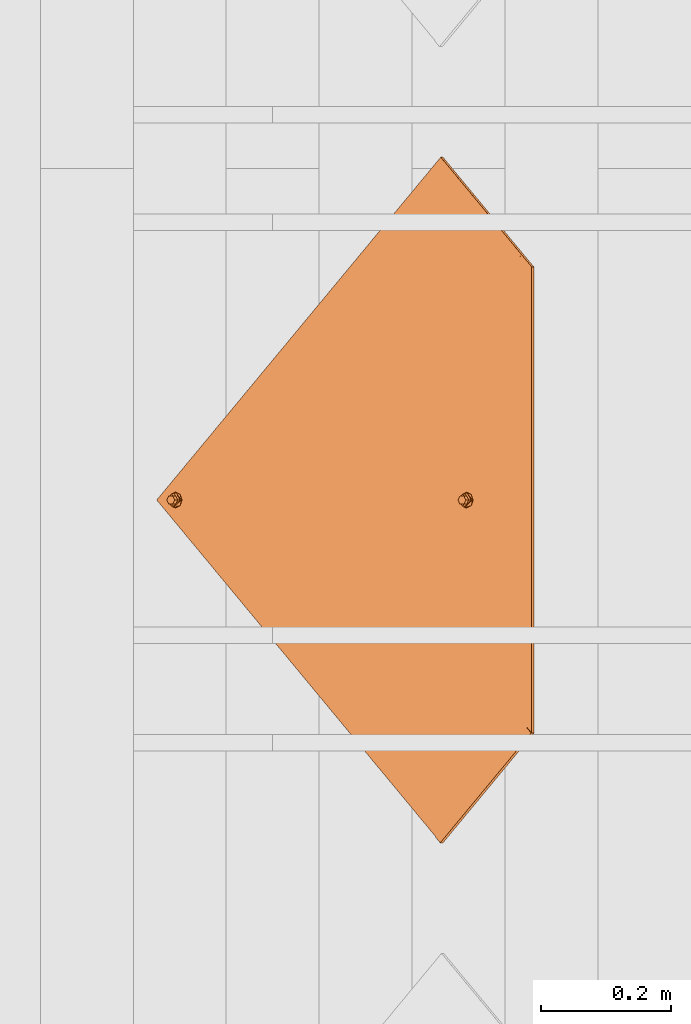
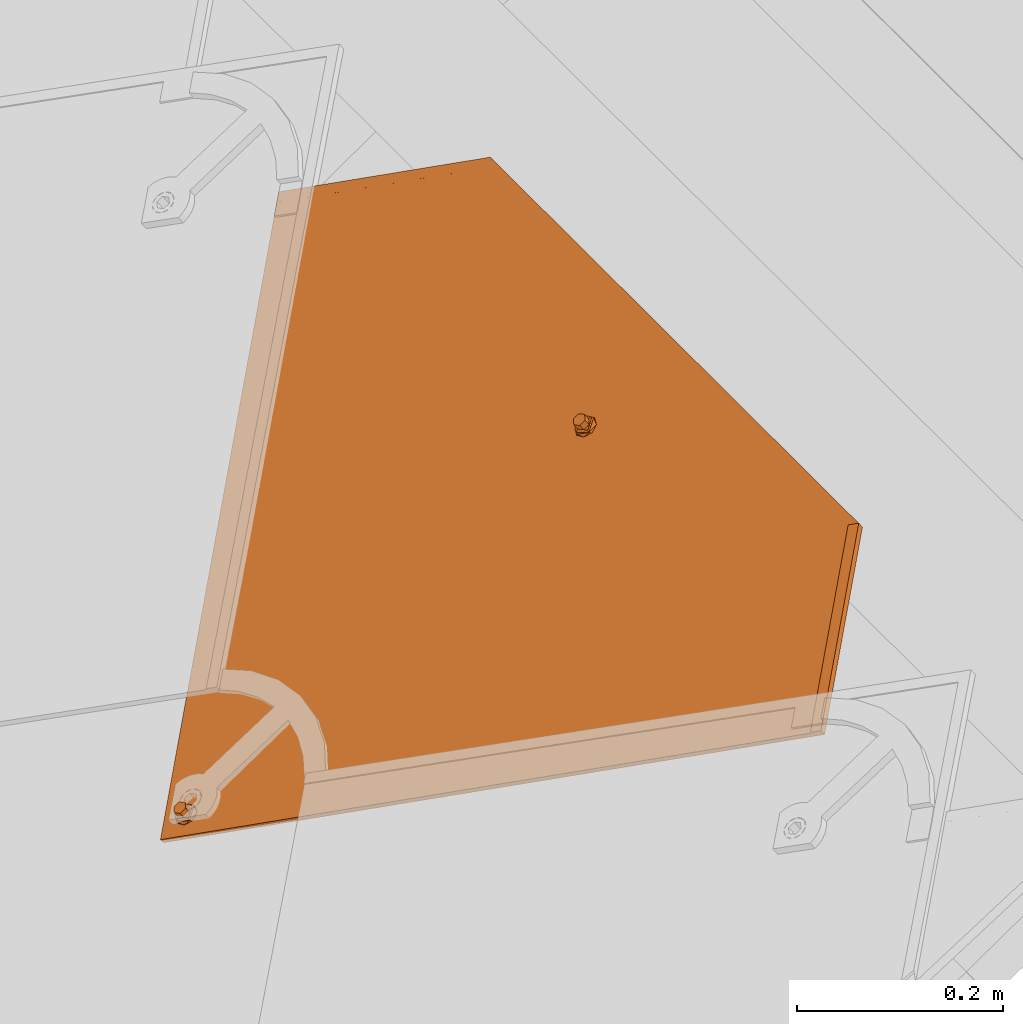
# One storey, part 38 of 151: 1 proxy.
"""IFC2X3 building model written with IfcOpenShell, lengths in millimetres."""

from ifc_helpers import new_model, entity, si_unit, converted_unit, derived_unit, direction, frame, origin, place, context, subcontext, project, spatial, faceted_brep, source, transform, mapped, material, material_list, type_object, type_shapes, element, save


model = new_model("IFC2X3")

# Units and contexts
model_context = context("Model", 3, precision=0.01, world=origin(), true_north=direction((6.12303176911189e-17, 1.0)))
body_context = subcontext(model_context, "Body", "Model", "MODEL_VIEW")
ifc_project = project(units=[si_unit("LENGTHUNIT", "METRE", prefix="MILLI"), si_unit("AREAUNIT", "SQUARE_METRE"), si_unit("VOLUMEUNIT", "CUBIC_METRE"), converted_unit("PLANEANGLEUNIT", "DEGREE", entity("IfcRatioMeasure", 0.0174532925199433), si_unit("PLANEANGLEUNIT", "RADIAN"), dimensions=[0, 0, 0, 0, 0, 0, 0]), si_unit("MASSUNIT", "GRAM", prefix="KILO"), derived_unit("MASSDENSITYUNIT", [(si_unit("MASSUNIT", "GRAM", prefix="KILO"), 1), (si_unit("LENGTHUNIT", "METRE"), -3)]), si_unit("TIMEUNIT", "SECOND"), si_unit("FREQUENCYUNIT", "HERTZ"), si_unit("THERMODYNAMICTEMPERATUREUNIT", "DEGREE_CELSIUS"), derived_unit("THERMALTRANSMITTANCEUNIT", [(si_unit("MASSUNIT", "GRAM", prefix="KILO"), 1), (si_unit("THERMODYNAMICTEMPERATUREUNIT", "KELVIN"), -1), (si_unit("TIMEUNIT", "SECOND"), -3)]), derived_unit("VOLUMETRICFLOWRATEUNIT", [(si_unit("LENGTHUNIT", "METRE"), 3), (si_unit("TIMEUNIT", "SECOND"), -1)]), si_unit("ELECTRICCURRENTUNIT", "AMPERE"), si_unit("ELECTRICVOLTAGEUNIT", "VOLT"), si_unit("POWERUNIT", "WATT"), si_unit("FORCEUNIT", "NEWTON", prefix="KILO"), si_unit("ILLUMINANCEUNIT", "LUX"), si_unit("LUMINOUSFLUXUNIT", "LUMEN"), si_unit("LUMINOUSINTENSITYUNIT", "CANDELA"), derived_unit("USERDEFINED", [(si_unit("MASSUNIT", "GRAM", prefix="KILO"), -1), (si_unit("LENGTHUNIT", "METRE"), -2), (si_unit("TIMEUNIT", "SECOND"), 3), (si_unit("LUMINOUSFLUXUNIT", "LUMEN"), 1)]), derived_unit("LINEARVELOCITYUNIT", [(si_unit("LENGTHUNIT", "METRE"), 1), (si_unit("TIMEUNIT", "SECOND"), -1)]), si_unit("PRESSUREUNIT", "PASCAL"), derived_unit("USERDEFINED", [(si_unit("LENGTHUNIT", "METRE"), -2), (si_unit("MASSUNIT", "GRAM", prefix="KILO"), 1), (si_unit("TIMEUNIT", "SECOND"), -2)])], contexts=[model_context])

# Site, building, storey
site_placement = place(None, origin())
site = spatial("IfcSite", under=ifc_project, at=site_placement, Name="Default", CompositionType="ELEMENT")
building_placement = place(site_placement, origin())
building = spatial("IfcBuilding", under=site, at=building_placement, CompositionType="ELEMENT")
storey_placement = place(building_placement, origin())
storey = spatial("IfcBuildingStorey", under=building, at=storey_placement, Name="Level 1", CompositionType="ELEMENT", Elevation=0.0)

# Proxy
ifc_material_1 = material(Name="Rubber - Sunstyle - Black")
ifc_material_2 = material(Name="Glass - Sunstyle - Tainted Black")
ifc_material_list_1 = material_list([ifc_material_1, ifc_material_2])
ifc_material_list_2 = material_list([ifc_material_1, ifc_material_2])
building_element_proxy_type = type_object("IfcBuildingElementProxyType", Name="Shingle Top - Black", PredefinedType="NOTDEFINED", material=ifc_material_list_2)
shared_shape = source(origin(), body_context, "Body", "Brep", [
    faceted_brep([(-518.396436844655, -96.9865733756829, 16.4476231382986), (-518.396436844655, -96.9614556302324, 17.9474128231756), (-526.881123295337, -88.4767691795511, 17.8053154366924), (-526.881123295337, -88.5018869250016, 16.3055257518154), (-376.996804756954, 61.3404039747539, 13.7960402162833), (-368.512118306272, 52.8557175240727, 13.9381376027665), (-376.996804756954, 61.3655217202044, 15.2958299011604), (-368.512118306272, 52.8808352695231, 15.4379272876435)], [[[0, 1, 2, 3]], [[0, 3, 4, 5]], [[3, 2, 6, 4]], [[2, 1, 7, 6]], [[1, 0, 5, 7]], [[5, 4, 6, 7]]]),
    faceted_brep([(0.166366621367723, -33.6374645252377, -4.47296585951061), (-5.6078362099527, -36.9707346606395, -4.4171418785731), (-5.60783620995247, -36.6024255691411, 17.5747274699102), (0.166366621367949, -33.2691554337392, 17.5189034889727), (-5.60783620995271, -43.6372749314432, -4.30549391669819), (-5.60783620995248, -43.2689658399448, 17.6863754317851), (0.166366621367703, -46.9705450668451, -4.24966993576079), (0.166366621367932, -46.6022359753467, 17.7421994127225), (5.94056945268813, -43.6372749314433, -4.30549391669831), (5.94056945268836, -43.2689658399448, 17.686375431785), (5.94056945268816, -36.9707346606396, -4.41714187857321), (5.94056945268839, -36.6024255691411, 17.5747274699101), (-8.43733754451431, -48.5381935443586, 17.774621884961), (0.16636662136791, -52.1014648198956, 17.8342978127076), (-12.0011084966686, -39.9356957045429, 17.6305514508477), (-8.43733754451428, -31.3331978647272, 17.4864810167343), (0.166366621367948, -27.7699265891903, 17.4268050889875), (8.77007078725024, -31.3331978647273, 17.4864810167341), (12.3338417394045, -39.935695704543, 17.6305514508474), (8.77007078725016, -48.5381935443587, 17.7746218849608), (-11.1578780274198, -37.6406185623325, 19.9433933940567), (-9.59010793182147, -39.8646808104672, 21.8708760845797), (0.166366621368, -32.5516055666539, 22.5035764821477), (0.166366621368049, -31.3111079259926, 21.9232298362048), (0.166366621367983, -29.1535570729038, 20.9138547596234), (0.166366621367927, -51.5454208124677, 19.1093557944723), (0.166366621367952, -50.6018442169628, 21.273060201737), (0.166366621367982, -47.1524685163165, 22.7481046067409), (0.166366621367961, -28.2829626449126, 18.7197675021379), (-6.15687907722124, -43.5022527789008, 22.6869725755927), (-6.15687907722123, -36.2018213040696, 22.5647085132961), (11.4906112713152, -42.1520387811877, 20.0189484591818), (10.0152467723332, -40.9390872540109, 21.7920079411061), (6.48961231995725, -36.2018213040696, 22.564708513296), (6.48961231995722, -43.5022527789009, 22.6869725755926), (-6.15687907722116, -43.3682243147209, 30.68986075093), (0.166366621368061, -47.0184400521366, 30.7509927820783), (0.166366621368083, -39.7180085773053, 30.6287287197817), (-6.15687907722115, -36.0677928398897, 30.5675966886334), (6.48961231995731, -43.368224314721, 30.6898607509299), (6.48961231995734, -36.0677928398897, 30.5675966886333), (0.166366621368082, -32.417577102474, 30.5064646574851), (0.166366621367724, -40.3040047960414, -4.36131789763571)], [[[0, 1, 2, 3]], [[1, 4, 5, 2]], [[4, 6, 7, 5]], [[6, 8, 9, 7]], [[8, 10, 11, 9]], [[10, 0, 3, 11]], [[12, 7, 13]], [[7, 12, 5]], [[14, 5, 12]], [[5, 14, 2]], [[15, 2, 14]], [[3, 2, 15]], [[15, 16, 3]], [[16, 17, 3]], [[11, 3, 17]], [[11, 17, 18]], [[9, 11, 18]], [[18, 19, 9]], [[7, 9, 19]], [[19, 13, 7]], [[20, 14, 12]], [[21, 22, 23, 24]], [[24, 20, 21]], [[25, 20, 12]], [[26, 27, 21]], [[15, 14, 20]], [[12, 13, 25]], [[20, 28, 15]], [[28, 20, 24]], [[21, 27, 29]], [[21, 29, 30]], [[26, 21, 20]], [[20, 25, 26]], [[15, 28, 16]], [[21, 30, 22]], [[31, 18, 17]], [[28, 31, 17]], [[32, 27, 26]], [[26, 31, 32]], [[26, 25, 31]], [[25, 19, 31]], [[17, 16, 28]], [[31, 19, 18]], [[24, 31, 28]], [[33, 34, 32]], [[23, 22, 33]], [[24, 32, 31]], [[27, 32, 34]], [[32, 23, 33]], [[19, 25, 13]], [[32, 24, 23]], [[35, 36, 37]], [[37, 38, 35]], [[36, 39, 37]], [[40, 37, 39]], [[37, 40, 41]], [[37, 41, 38]], [[42, 6, 4]], [[4, 1, 42]], [[1, 0, 42]], [[42, 8, 6]], [[0, 10, 42]], [[8, 42, 10]], [[22, 30, 38, 41]], [[30, 29, 35, 38]], [[29, 27, 36, 35]], [[27, 34, 39, 36]], [[34, 33, 40, 39]], [[33, 22, 41, 40]]]),
    faceted_brep([(0.0, -573.927138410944, 4.00636906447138), (-5.77420283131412, -577.260408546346, 4.0621930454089), (-5.77420283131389, -576.892099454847, 26.0540623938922), (0.0, -573.558829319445, 25.9982384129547), (-5.77420283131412, -583.926948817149, 4.1738410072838), (-5.7742028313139, -583.558639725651, 26.1657103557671), (0.0, -587.260218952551, 4.2296649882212), (0.0, -586.891909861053, 26.2215343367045), (5.77420283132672, -583.926948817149, 4.17384100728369), (5.77420283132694, -583.558639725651, 26.165710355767), (5.77420283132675, -577.260408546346, 4.06219304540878), (5.77420283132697, -576.892099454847, 26.0540623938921), (-8.60370416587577, -588.827867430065, 26.253956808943), (0.0, -592.391138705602, 26.3136327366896), (-12.1674751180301, -580.225369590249, 26.1098863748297), (-8.60370416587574, -571.622871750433, 25.9658159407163), (0.0, -568.059600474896, 25.9061400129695), (8.60370416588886, -571.622871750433, 25.9658159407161), (12.1674751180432, -580.225369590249, 26.1098863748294), (8.60370416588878, -588.827867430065, 26.2539568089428), (-11.3242446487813, -577.930292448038, 28.4227283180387), (-9.75647455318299, -580.154354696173, 30.3502110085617), (0.0, -572.84127945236, 30.9829114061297), (0.0, -571.600781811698, 30.4025647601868), (0.0, -569.44323095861, 29.3931896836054), (0.0, -591.835094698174, 27.5886907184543), (0.0, -590.891518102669, 29.752395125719), (0.0, -587.442142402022, 31.227439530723), (0.0, -568.572636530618, 27.1991024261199), (-6.32324569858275, -583.791926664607, 31.1663074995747), (-6.32324569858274, -576.491495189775, 31.0440434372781), (11.3242446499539, -582.441712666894, 28.4982833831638), (9.84888015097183, -581.228761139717, 30.2713428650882), (6.32324569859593, -576.491495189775, 31.044043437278), (6.32324569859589, -583.791926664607, 31.1663074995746), (-6.32324569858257, -583.657898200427, 39.169195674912), (0.0, -587.308113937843, 39.2303277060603), (0.0, -580.007682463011, 39.1080636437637), (-6.32324569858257, -576.357466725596, 39.0469316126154), (6.32324569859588, -583.657898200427, 39.1691956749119), (6.32324569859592, -576.357466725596, 39.0469316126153), (0.0, -572.70725098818, 38.9857995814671), (0.0, -580.593678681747, 4.11801702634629)], [[[0, 1, 2, 3]], [[1, 4, 5, 2]], [[4, 6, 7, 5]], [[6, 8, 9, 7]], [[8, 10, 11, 9]], [[10, 0, 3, 11]], [[12, 7, 13]], [[7, 12, 5]], [[14, 5, 12]], [[5, 14, 2]], [[15, 2, 14]], [[3, 2, 15]], [[15, 16, 3]], [[16, 17, 3]], [[11, 3, 17]], [[11, 17, 18]], [[9, 11, 18]], [[18, 19, 9]], [[7, 9, 19]], [[19, 13, 7]], [[20, 14, 12]], [[21, 22, 23, 24]], [[24, 20, 21]], [[25, 20, 12]], [[26, 27, 21]], [[15, 14, 20]], [[12, 13, 25]], [[20, 28, 15]], [[28, 20, 24]], [[21, 27, 29]], [[21, 29, 30]], [[26, 21, 20]], [[20, 25, 26]], [[15, 28, 16]], [[21, 30, 22]], [[31, 18, 17]], [[28, 31, 17]], [[32, 27, 26]], [[26, 31, 32]], [[26, 25, 31]], [[25, 19, 31]], [[17, 16, 28]], [[31, 19, 18]], [[24, 31, 28]], [[33, 34, 32]], [[23, 22, 33]], [[24, 32, 31]], [[27, 32, 34]], [[32, 23, 33]], [[19, 25, 13]], [[32, 24, 23]], [[35, 36, 37]], [[37, 38, 35]], [[36, 39, 37]], [[40, 37, 39]], [[37, 40, 41]], [[37, 41, 38]], [[42, 6, 4]], [[4, 1, 42]], [[1, 0, 42]], [[42, 8, 6]], [[0, 10, 42]], [[8, 42, 10]], [[22, 30, 38, 41]], [[30, 29, 35, 38]], [[29, 27, 36, 35]], [[27, 34, 39, 36]], [[34, 33, 40, 39]], [[33, 22, 41, 40]]]),
    faceted_brep([(518.482751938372, -96.8754983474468, 17.9260478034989), (526.967438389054, -88.3908118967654, 17.7839504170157), (526.967438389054, -88.3656941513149, 19.2837401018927), (518.482751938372, -96.8503806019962, 19.4258374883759), (349.749400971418, 71.8105397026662, 15.1009763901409), (358.234087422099, 80.2952261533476, 14.9588790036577), (358.234087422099, 80.3203438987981, 16.4586686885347), (349.749400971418, 71.8356574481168, 16.6007660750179)], [[[0, 1, 2, 3]], [[1, 0, 4, 5]], [[2, 1, 5, 6]], [[3, 2, 6, 7]], [[0, 3, 7, 4]], [[4, 7, 6, 5]]]),
    faceted_brep([(358.234087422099, 80.2952261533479, 14.9588790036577), (6.94661128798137, -35.8890860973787, 16.9046771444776), (7.74581466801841, -37.8182632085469, 16.9369860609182), (5.67526230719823, -34.2324641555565, 16.8769328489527), (8.01840805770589, -39.8885252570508, 16.9716577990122), (7.74581466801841, -41.9587873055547, 17.0063295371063), (6.94661128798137, -43.8879644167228, 17.0386384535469), (526.967438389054, -88.3908118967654, 17.7839504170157), (4.01840805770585, -32.9612934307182, 16.855643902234), (2.08896041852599, -32.1622021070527, 16.8422611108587), (0.0184080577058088, -31.8896469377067, 16.8376964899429), (-358.233442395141, 80.2952261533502, 14.9588790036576), (-2.05214430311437, -32.1622021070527, 16.8422611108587), (-3.98159194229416, -32.9612934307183, 16.855643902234), (-5.63844619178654, -34.2324641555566, 16.8769328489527), (-6.90979517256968, -35.8890860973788, 16.9046771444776), (-7.70899855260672, -37.8182632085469, 16.9369860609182), (-7.98159194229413, -39.8885252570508, 16.9716577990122), (-7.70899855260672, -41.9587873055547, 17.0063295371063), (-6.90979517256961, -43.8879644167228, 17.0386384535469), (-526.966793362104, -88.390811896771, 17.7839504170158), (-5.63844619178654, -45.544586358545, 17.0663827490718), (-5.6568542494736, -574.226981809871, 25.9204974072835), (-6.92820323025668, -575.883603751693, 25.9482417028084), (-7.72740661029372, -577.812780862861, 25.980550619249), (-8.0, -579.883042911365, 26.015222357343), (-7.72740661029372, -581.953304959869, 26.049894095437), (0.000322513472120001, -615.210165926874, 26.6068637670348), (7.72740661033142, -581.953304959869, 26.049894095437), (6.92820323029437, -583.882482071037, 26.0822030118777), (5.65685424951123, -585.53910401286, 26.1099473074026), (4.0, -586.810274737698, 26.1312362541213), (2.070552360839, -587.609366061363, 26.1446190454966), (0.0, -587.881921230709, 26.1491836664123), (-2.0705523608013, -587.609366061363, 26.1446190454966), (-4.0, -586.810274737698, 26.1312362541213), (-5.65685424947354, -585.53910401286, 26.1099473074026), (-6.92820323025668, -583.882482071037, 26.0822030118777), (-4.0, -572.955811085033, 25.8992084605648), (-3.98159194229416, -46.8157570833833, 17.0876716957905), (-2.07055236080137, -572.156719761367, 25.8858256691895), (-2.05214430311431, -47.614848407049, 17.1010544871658), (0.0, -571.884164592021, 25.8812610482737), (0.0184080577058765, -47.8874035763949, 17.1056191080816), (2.07055236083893, -572.156719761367, 25.8858256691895), (2.08896041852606, -47.6148484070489, 17.1010544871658), (4.0, -572.955811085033, 25.8992084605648), (4.01840805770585, -46.8157570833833, 17.0876716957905), (5.65685424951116, -574.226981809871, 25.9204974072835), (5.67526230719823, -45.544586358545, 17.0663827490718), (6.92820323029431, -575.883603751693, 25.9482417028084), (7.72740661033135, -577.812780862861, 25.980550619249), (8.0, -579.883042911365, 26.015222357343), (-358.233442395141, 80.1947551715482, 8.9597202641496), (-6.90979517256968, -35.9895570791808, 10.9055184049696), (-7.70899855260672, -37.9187341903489, 10.9378273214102), (-5.63844619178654, -34.3329351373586, 10.8777741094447), (-7.98159194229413, -39.9889962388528, 10.9724990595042), (-7.70899855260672, -42.0592582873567, 11.0071707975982), (-6.90979517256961, -43.9884353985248, 11.0394797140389), (-526.966793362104, -88.4912828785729, 11.7847916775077), (-3.98159194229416, -33.0617644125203, 10.856485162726), (-2.05214430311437, -32.2626730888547, 10.8431023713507), (0.0184080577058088, -31.9901179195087, 10.8385377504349), (358.234087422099, 80.1947551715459, 8.95972026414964), (2.08896041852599, -32.2626730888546, 10.8431023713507), (4.01840805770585, -33.0617644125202, 10.856485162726), (5.67526230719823, -34.3329351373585, 10.8777741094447), (6.94661128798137, -35.9895570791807, 10.9055184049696), (7.74581466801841, -37.9187341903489, 10.9378273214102), (8.01840805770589, -39.9889962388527, 10.9724990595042), (7.74581466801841, -42.0592582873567, 11.0071707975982), (6.94661128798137, -43.9884353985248, 11.0394797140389), (526.967438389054, -88.4912828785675, 11.7847916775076), (5.67526230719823, -45.645057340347, 11.0672240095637), (5.65685424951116, -574.327452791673, 19.9213386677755), (6.92820323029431, -575.984074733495, 19.9490829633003), (7.72740661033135, -577.913251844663, 19.981391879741), (8.0, -579.983513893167, 20.016063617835), (7.72740661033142, -582.053775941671, 20.050735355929), (0.000322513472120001, -615.310636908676, 20.6077050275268), (-7.72740661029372, -582.053775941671, 20.050735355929), (-6.92820323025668, -583.982953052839, 20.0830442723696), (-5.65685424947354, -585.639574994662, 20.1107885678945), (-4.0, -586.9107457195, 20.1320775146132), (-2.0705523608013, -587.709837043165, 20.1454603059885), (0.0, -587.982392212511, 20.1500249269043), (2.070552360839, -587.709837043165, 20.1454603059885), (4.0, -586.9107457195, 20.1320775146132), (5.65685424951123, -585.639574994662, 20.1107885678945), (6.92820323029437, -583.982953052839, 20.0830442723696), (4.01840805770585, -46.9162280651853, 11.0885129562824), (4.0, -573.056282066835, 19.9000497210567), (2.08896041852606, -47.7153193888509, 11.1018957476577), (2.07055236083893, -572.257190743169, 19.8866669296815), (0.0184080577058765, -47.9878745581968, 11.1064603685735), (0.0, -571.984635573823, 19.8821023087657), (-2.05214430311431, -47.7153193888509, 11.1018957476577), (-2.07055236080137, -572.257190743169, 19.8866669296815), (-3.98159194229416, -46.9162280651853, 11.0885129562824), (-4.0, -573.056282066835, 19.9000497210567), (-5.63844619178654, -45.645057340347, 11.0672240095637), (-5.6568542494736, -574.327452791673, 19.9213386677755), (-6.92820323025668, -575.984074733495, 19.9490829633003), (-7.72740661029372, -577.913251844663, 19.981391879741), (-8.0, -579.983513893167, 20.016063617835)], [[[0, 1, 2]], [[1, 0, 3]], [[0, 2, 4]], [[4, 5, 0]], [[5, 6, 0]], [[7, 0, 6]], [[8, 3, 0]], [[9, 8, 0]], [[10, 9, 0]], [[0, 11, 10]], [[12, 10, 11]], [[13, 12, 11]], [[14, 13, 11]], [[11, 15, 14]], [[15, 11, 16]], [[16, 11, 17]], [[11, 18, 17]], [[18, 11, 19]], [[11, 20, 19]], [[19, 20, 21]], [[20, 22, 21]], [[23, 22, 20]], [[24, 23, 20]], [[24, 20, 25]], [[26, 25, 20]], [[27, 26, 20]], [[7, 28, 27]], [[29, 27, 28]], [[27, 29, 30]], [[30, 31, 27]], [[31, 32, 27]], [[27, 32, 33]], [[27, 33, 34]], [[34, 35, 27]], [[27, 35, 36]], [[36, 37, 27]], [[37, 26, 27]], [[38, 21, 22]], [[38, 39, 21]], [[38, 40, 39]], [[40, 41, 39]], [[40, 42, 41]], [[41, 42, 43]], [[44, 43, 42]], [[44, 45, 43]], [[45, 44, 46]], [[46, 47, 45]], [[46, 48, 47]], [[48, 49, 47]], [[50, 7, 48]], [[48, 7, 49]], [[7, 50, 51]], [[7, 51, 52]], [[52, 28, 7]], [[7, 6, 49]], [[53, 54, 55]], [[54, 53, 56]], [[53, 55, 57]], [[58, 53, 57]], [[59, 53, 58]], [[60, 53, 59]], [[61, 56, 53]], [[62, 61, 53]], [[53, 63, 62]], [[63, 53, 64]], [[65, 63, 64]], [[66, 65, 64]], [[64, 67, 66]], [[67, 64, 68]], [[68, 64, 69]], [[70, 69, 64]], [[71, 70, 64]], [[72, 71, 64]], [[72, 64, 73]], [[72, 73, 74]], [[74, 73, 75]], [[73, 76, 75]], [[76, 73, 77]], [[77, 73, 78]], [[79, 78, 73]], [[79, 73, 80]], [[60, 81, 80]], [[80, 81, 82]], [[80, 82, 83]], [[83, 84, 80]], [[84, 85, 80]], [[85, 86, 80]], [[80, 86, 87]], [[80, 87, 88]], [[80, 88, 89]], [[79, 80, 90]], [[80, 89, 90]], [[75, 91, 74]], [[75, 92, 91]], [[92, 93, 91]], [[93, 92, 94]], [[93, 94, 95]], [[96, 95, 94]], [[97, 95, 96]], [[96, 98, 97]], [[98, 99, 97]], [[98, 100, 99]], [[100, 101, 99]], [[100, 102, 101]], [[60, 101, 102]], [[103, 60, 102]], [[103, 104, 60]], [[104, 105, 60]], [[105, 81, 60]], [[59, 101, 60]], [[27, 20, 60, 80]], [[7, 27, 80, 73]], [[0, 7, 73, 64]], [[25, 105, 104, 24]], [[24, 104, 103, 23]], [[38, 22, 102, 100]], [[102, 22, 23, 103]], [[40, 38, 100, 98]], [[40, 98, 96, 42]], [[42, 96, 94, 44]], [[44, 94, 92, 46]], [[50, 48, 75, 76]], [[75, 48, 46, 92]], [[51, 50, 76, 77]], [[51, 77, 78, 52]], [[52, 78, 79, 28]], [[28, 79, 90, 29]], [[31, 30, 89, 88]], [[29, 90, 89, 30]], [[87, 32, 31, 88]], [[32, 87, 86, 33]], [[34, 33, 86, 85]], [[34, 85, 84, 35]], [[37, 36, 83, 82]], [[35, 84, 83, 36]], [[37, 82, 81, 26]], [[26, 81, 105, 25]], [[17, 57, 55, 16]], [[16, 55, 54, 15]], [[13, 14, 56, 61]], [[56, 14, 15, 54]], [[12, 13, 61, 62]], [[12, 62, 63, 10]], [[10, 63, 65, 9]], [[9, 65, 66, 8]], [[1, 3, 67, 68]], [[67, 3, 8, 66]], [[2, 1, 68, 69]], [[2, 69, 70, 4]], [[4, 70, 71, 5]], [[5, 71, 72, 6]], [[47, 49, 74, 91]], [[74, 49, 6, 72]], [[45, 47, 91, 93]], [[45, 93, 95, 43]], [[43, 95, 97, 41]], [[41, 97, 99, 39]], [[19, 21, 101, 59]], [[101, 21, 39, 99]], [[18, 19, 59, 58]], [[18, 58, 57, 17]], [[11, 0, 64, 53]], [[20, 11, 53, 60]]]),
])
type_shapes(building_element_proxy_type, [shared_shape])
proxy_placement = place(storey_placement, frame((805.368534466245, -2254.02539596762, 2509.19535506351), z_axis=(-0.57357643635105, 0.0, 0.819152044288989), x_axis=(0.0, -1.0, 0.0)))
element("IfcBuildingElementProxy", 1, at=proxy_placement, inside=storey, type_object=building_element_proxy_type, material=ifc_material_list_1, Name="Roofing_Panels_SunStyle_Tile_Shingle-Top:Shingle Top - Black", ObjectType="Roofing_Panels_SunStyle_Tile_Shingle-Top:Shingle Top - Black", context=body_context, shape_type="MappedRepresentation", body=[
    mapped(shared_shape, transform((0.0, 0.0, 0.0), scale=1.0)),
])

save(model, "model.ifc")
